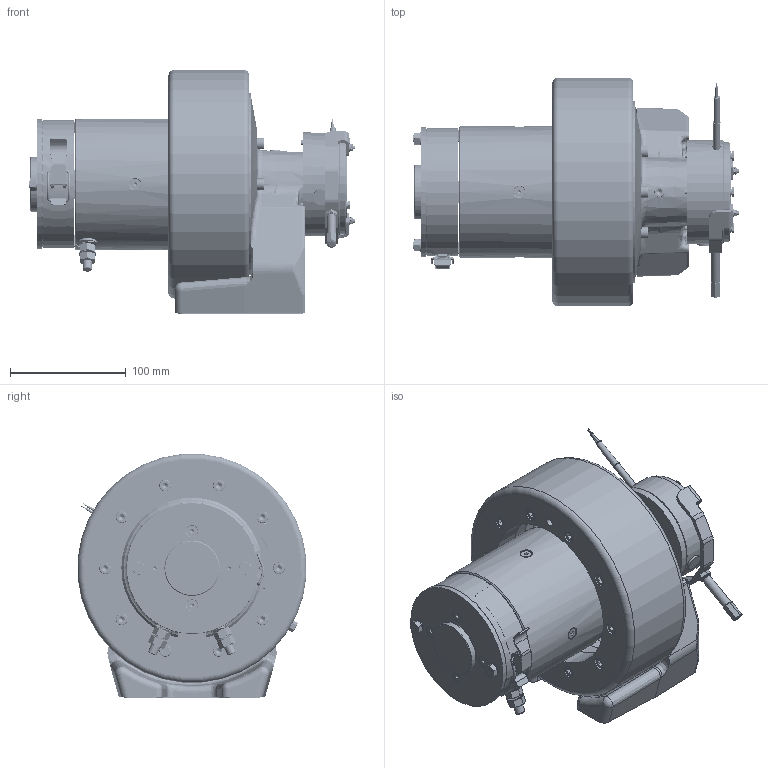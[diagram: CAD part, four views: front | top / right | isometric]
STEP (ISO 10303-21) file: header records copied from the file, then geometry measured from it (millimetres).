
FILE_DESCRIPTION(/* description */ (''),/* implementation_level */ '2;1');
FILE_NAME(/* name */ 'Z:\SITO WEB 2023\Motoruote\Orizzontali NON sterzanti\MR200FR\MR200FR DC\MR200FR-DC.stp',/* time_stamp */ '2023-05-16T14:02:21+02:00',/* author */ ('cad3'),/* organization */ (''),/* preprocessor_version */ 'ST-DEVELOPER v18.1',/* originating_system */ 'Autodesk Inventor 2022',/* authorisation */ '');
FILE_SCHEMA (('AUTOMOTIVE_DESIGN { 1 0 10303 214 3 1 1 }'));
Products named in the file (1): MR200FR-DC
Bounding box: 281.6 x 197.29 x 210.65 mm (x, y, z)
Volume: 2193009.8 mm3; surface area: 492901 mm2
Topology: 15 solids, 22 shells, 5598 faces, 14197 edges, 9198 vertices
Faces by surface type: plane 4130, cylinder 599, bspline 447, cone 288, torus 103, sphere 31
Full cylindrical faces by diameter (mm): 0.75 x2, 2 x2, 2.1 x8, 2.6 x1, 3 x8, 3.2 x6, 3.242 x3, 3.25 x1, 3.5 x2, 4 x11, 4.1 x2, 4.2 x8, 4.3 x3, 4.5 x3, 4.917 x2, 5 x12, 5.2 x10, 5.4 x1, 5.5 x7, 5.88 x3, 5.917 x3, 6 x18, 6.4 x2, 6.5 x15, 6.75 x6, 7 x5, 7.2 x1, 7.64 x3, 7.8 x1, 8 x14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
Entity records: 203618 total; most frequent: CARTESIAN_POINT 63202, ORIENTED_EDGE 28298, DIRECTION 27238, EDGE_CURVE 14149, AXIS2_PLACEMENT_3D 9259, VERTEX_POINT 9206, LINE 8720, VECTOR 8720
